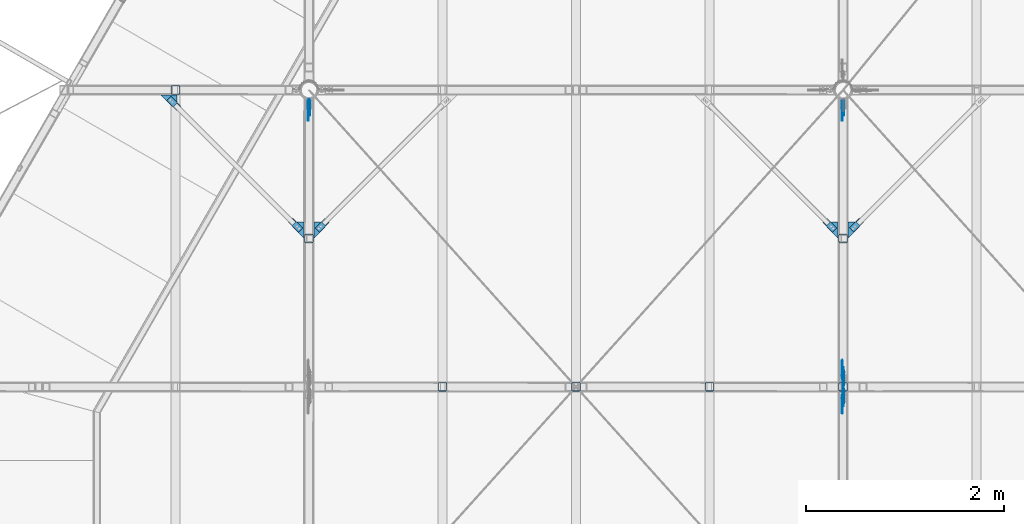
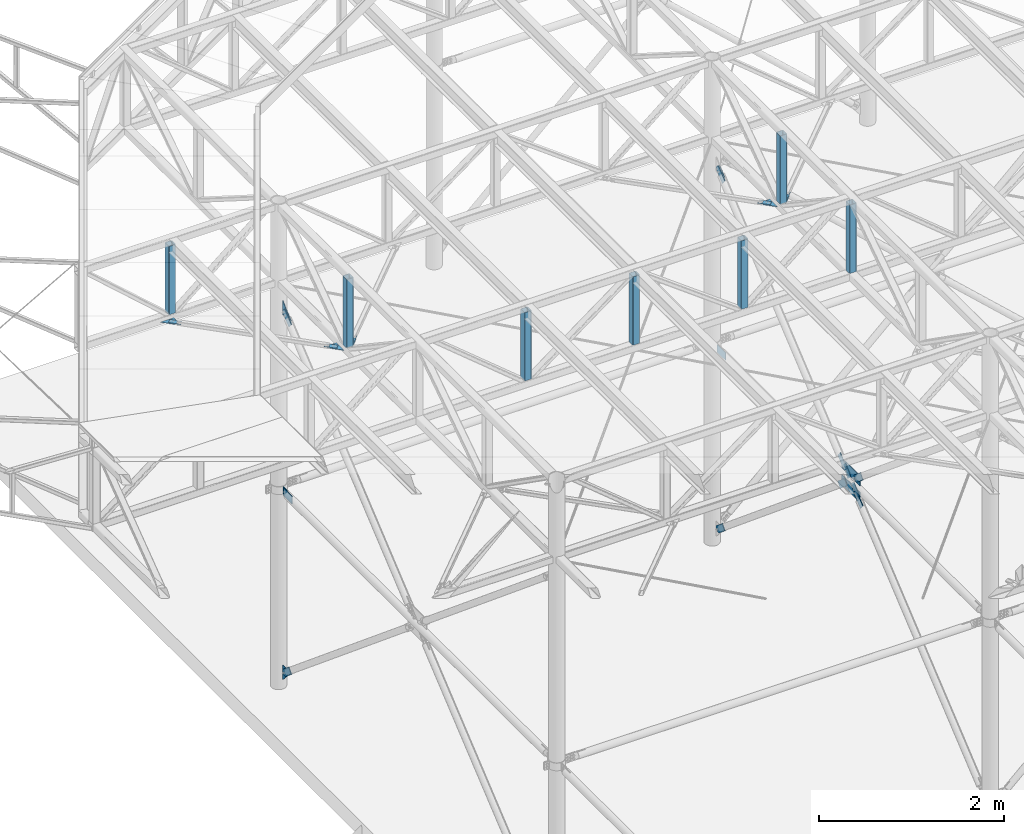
# One storey, part 86 of 132: 40 discrete accessories, 23 elements without a shape of their own.
"""IFC2X3 building model written with IfcOpenShell, lengths in millimetres."""

import ifcopenshell
import ifcopenshell.guid

model = None  # the IFC model being written
_history = None  # IfcOwnerHistory: only IFC2X3 demands one
_inside = {}  # id of a spatial element -> (the spatial element, [elements in it])
_under = {}  # id of a project, library or spatial element -> (it, [spatial elements below it])
_declared = {}  # id of a project -> (the project, [libraries it declares])
_typed = {}  # id of a type object -> (the type object, [elements of that type])
_made_of = {}  # id of a material, layer set ... -> (it, [elements and type objects made of it])


def new_model(schema):
    """Start an empty IFC model of exactly this schema.

    Asked for "IFC4X3", IfcOpenShell would pick the latest addendum, in which some entities
    have other attributes; the version numbers below select the first issue.
    IFC2X3 requires an IfcOwnerHistory on every rooted entity: one is made here for all.
    """
    global model, _history
    if schema == "IFC4X3":
        model = ifcopenshell.file(schema_version=(4, 3, 0, 0))
    else:
        model = ifcopenshell.file(schema=schema)
    _inside.clear()
    _under.clear()
    _declared.clear()
    _typed.clear()
    _made_of.clear()
    _history = None
    if model.schema == "IFC2X3":
        org = make("IfcOrganization", Name="unknown")
        user = make(
            "IfcPersonAndOrganization",
            ThePerson=make("IfcPerson", FamilyName="unknown"),
            TheOrganization=org,
        )
        app = make(
            "IfcApplication",
            ApplicationDeveloper=org,
            Version="unknown",
            ApplicationFullName="unknown",
            ApplicationIdentifier="unknown",
        )
        _history = make(
            "IfcOwnerHistory",
            OwningUser=user,
            OwningApplication=app,
            ChangeAction="ADDED",
            CreationDate=0,
        )
    return model


def make(cls, **values):
    """One entity of the class cls with the attributes given. An attribute that is None is left unset."""
    return model.create_entity(
        cls, **{name: value for name, value in values.items() if value is not None}
    )


def rooted(cls, **values):
    """An entity with a GlobalId (a new one), such as an element, a storey or a relation."""
    return make(cls, GlobalId=ifcopenshell.guid.new(), OwnerHistory=_history, **values)


def si_unit(unit_type, name, prefix=None):
    """IfcSIUnit, for example si_unit("LENGTHUNIT", "METRE", prefix="MILLI")."""
    return make("IfcSIUnit", UnitType=unit_type, Prefix=prefix, Name=name)


def assignment(units):
    """IfcUnitAssignment: the units of a project."""
    return None if units is None else make("IfcUnitAssignment", Units=units)


def point(xyz):
    """IfcCartesianPoint."""
    return None if xyz is None else make("IfcCartesianPoint", Coordinates=xyz)


def direction(xyz):
    """IfcDirection."""
    return None if xyz is None else make("IfcDirection", DirectionRatios=xyz)


def frame(location, z_axis=None, x_axis=None):
    """IfcAxis2Placement3D, a coordinate frame: its origin and axes. An axis left out is left unset."""
    return make(
        "IfcAxis2Placement3D",
        Location=point(location),
        Axis=direction(z_axis),
        RefDirection=direction(x_axis),
    )


def frame_2d(location, x_axis=None):
    """IfcAxis2Placement2D, a coordinate frame in the plane: its origin and x axis."""
    return make(
        "IfcAxis2Placement2D", Location=point(location), RefDirection=direction(x_axis)
    )


def origin_with_axes():
    """The frame at (0, 0, 0) with the z axis (0, 0, 1) and the x axis (1, 0, 0) written out."""
    return frame((0.0, 0.0, 0.0), z_axis=(0.0, 0.0, 1.0), x_axis=(1.0, 0.0, 0.0))


def origin_2d_with_axis():
    """The frame at (0, 0) in the plane with the x axis (1, 0) written out."""
    return frame_2d((0.0, 0.0), x_axis=(1.0, 0.0))


def place(relative_to, where):
    """IfcLocalPlacement: puts the frame where relative to a parent placement (None: the world)."""
    return make(
        "IfcLocalPlacement", PlacementRelTo=relative_to, RelativePlacement=where
    )


def context(
    kind, dimensions, precision=None, world=None, true_north=None, identifier=None
):
    """IfcGeometricRepresentationContext, for example the 3D "Model" context."""
    return make(
        "IfcGeometricRepresentationContext",
        ContextIdentifier=identifier,
        ContextType=kind,
        CoordinateSpaceDimension=dimensions,
        Precision=precision,
        WorldCoordinateSystem=world,
        TrueNorth=true_north,
    )


def subcontext(parent, identifier, kind, view, scale=None):
    """IfcGeometricRepresentationSubContext, for example "Body" below "Model"."""
    return make(
        "IfcGeometricRepresentationSubContext",
        ContextIdentifier=identifier,
        ContextType=kind,
        ParentContext=parent,
        TargetScale=scale,
        TargetView=view,
    )


def project(units=None, contexts=None):
    """IfcProject with its units and contexts."""
    return rooted(
        "IfcProject",
        Name="project",
        RepresentationContexts=contexts,
        UnitsInContext=assignment(units),
    )


def spatial(cls, under=None, at=None, **own):
    """A site, building, storey or space (cls), placed at a placement, below another one or the project."""
    s = rooted(cls, ObjectPlacement=at, **own)
    if under is not None:
        _under.setdefault(under.id(), (under, []))[1].append(s)
    return s


def polyline(points):
    """IfcPolyline through the points."""
    return make("IfcPolyline", Points=[point(p) for p in points])


def profile(cls, at=None, kind="AREA", **sizes):
    """A parametric profile (cls). Its sizes go by their IFC names, for example OverallWidth=200.0."""
    return make(cls, ProfileType=kind, Position=at, **sizes)


def rectangle(**sizes):
    """IfcRectangleProfileDef."""
    return profile("IfcRectangleProfileDef", **sizes)


def hollow_rectangle(**sizes):
    """IfcRectangleHollowProfileDef."""
    return profile("IfcRectangleHollowProfileDef", **sizes)


def outline(outer, holes=None, kind="AREA"):
    """IfcArbitraryClosedProfileDef: a profile drawn as a closed curve; with holes, ...WithVoids."""
    if holes is None:
        return make("IfcArbitraryClosedProfileDef", ProfileType=kind, OuterCurve=outer)
    return make(
        "IfcArbitraryProfileDefWithVoids",
        ProfileType=kind,
        OuterCurve=outer,
        InnerCurves=holes,
    )


def extrude(swept, where, along, depth):
    """IfcExtrudedAreaSolid: the profile swept, set in the frame where, extruded along a direction by depth."""
    return make(
        "IfcExtrudedAreaSolid",
        SweptArea=swept,
        Position=where,
        ExtrudedDirection=direction(along),
        Depth=depth,
    )


def boolean(op, a, b):
    """IfcBooleanResult of two solids."""
    return make("IfcBooleanResult", Operator=op, FirstOperand=a, SecondOperand=b)


def clip(a, b, op="DIFFERENCE"):
    """IfcBooleanClippingResult: the solid a cut by the half space b."""
    return make(
        "IfcBooleanClippingResult", Operator=op, FirstOperand=a, SecondOperand=b
    )


def halfspace(plane, agree):
    """IfcHalfSpaceSolid: all space on one side of the plane z = 0 of the frame plane."""
    return make(
        "IfcHalfSpaceSolid",
        BaseSurface=make("IfcPlane", Position=plane),
        AgreementFlag=agree,
    )


def shape(context_of_items, identifier, shape_type, items):
    """IfcShapeRepresentation: the items that make up one representation, for example the "Body"."""
    return make(
        "IfcShapeRepresentation",
        ContextOfItems=context_of_items,
        RepresentationIdentifier=identifier,
        RepresentationType=shape_type,
        Items=items,
    )


def material(Name=None, Category=None):
    """IfcMaterial."""
    return make("IfcMaterial", Name=Name, Category=Category)


def made_of(thing, what):
    """Note that an element or type object is made of a material, layer set ...; save() writes the relation."""
    if what is not None:
        _made_of.setdefault(what.id(), (what, []))[1].append(thing)
    return thing


def type_object(cls, material=None, **own):
    """A type object (cls), such as IfcWallType, which elements share."""
    return made_of(rooted(cls, **own), material)


def element(
    cls,
    number,
    at=None,
    inside=None,
    cuts=None,
    type_object=None,
    material=None,
    context=None,
    identifier="Body",
    shape_type=None,
    held_by="IfcProductDefinitionShape",
    body=None,
    shapes=None,
    **own,
):
    """One element of the class cls, such as IfcWall. Its Tag is "e" and its number.

    at: its placement. inside: the storey or other place that contains it. cuts: it is an
    opening in that element (IfcRelVoidsElement). A single representation is given by context,
    identifier, shape_type and body (its items); several are given by shapes. held_by: the class
    of the entity that holds the representations. save() writes the other relations.
    """
    e = rooted(cls, Tag="e%d" % number, ObjectPlacement=at, **own)
    if body is not None:
        shapes = [shape(context, identifier, shape_type, body)]
    if shapes is not None:
        e.Representation = make(held_by, Representations=shapes)
    if inside is not None:
        _inside.setdefault(inside.id(), (inside, []))[1].append(e)
    if cuts is not None:
        rooted(
            "IfcRelVoidsElement", RelatingBuildingElement=cuts, RelatedOpeningElement=e
        )
    if type_object is not None:
        _typed.setdefault(type_object.id(), (type_object, []))[1].append(e)
    return made_of(e, material)


def aggregate(whole, parts):
    """IfcRelAggregates: a whole, such as a stair, and the parts it consists of."""
    return rooted("IfcRelAggregates", RelatingObject=whole, RelatedObjects=parts)


def save(model, path):
    """Write the relations noted so far, then the file.

    IfcRelAggregates (storeys below a building ...), IfcRelContainedInSpatialStructure (elements
    in a storey), IfcRelDefinesByType, IfcRelAssociatesMaterial and IfcRelDeclares: one each for
    every whole, place, type object, material and project.
    """
    for whole, parts in _under.values():
        aggregate(whole, parts)
    for where, things in _inside.values():
        rooted(
            "IfcRelContainedInSpatialStructure",
            RelatedElements=things,
            RelatingStructure=where,
        )
    for kind, things in _typed.values():
        rooted("IfcRelDefinesByType", RelatedObjects=things, RelatingType=kind)
    for what, things in _made_of.values():
        rooted("IfcRelAssociatesMaterial", RelatedObjects=things, RelatingMaterial=what)
    for by, libraries in _declared.values():
        rooted("IfcRelDeclares", RelatingContext=by, RelatedDefinitions=libraries)
    model.write(path)


model = new_model("IFC2X3")

# Units and contexts
model_context = context("Model", 3, precision=1e-05, world=origin_with_axes())
body_context = subcontext(model_context, "Body", "Model", "MODEL_VIEW")
ifc_project = project(units=[si_unit("LENGTHUNIT", "METRE", prefix="MILLI"), si_unit("AREAUNIT", "SQUARE_METRE"), si_unit("VOLUMEUNIT", "CUBIC_METRE"), si_unit("MASSUNIT", "GRAM", prefix="KILO"), si_unit("TIMEUNIT", "SECOND"), si_unit("PLANEANGLEUNIT", "RADIAN"), si_unit("SOLIDANGLEUNIT", "STERADIAN"), si_unit("THERMODYNAMICTEMPERATUREUNIT", "DEGREE_CELSIUS"), si_unit("LUMINOUSINTENSITYUNIT", "LUMEN")], contexts=[model_context])

# Site, building, storey
site_placement = place(None, origin_with_axes())
site = spatial("IfcSite", under=ifc_project, at=site_placement, Name="Budowa", CompositionType="ELEMENT")
building_placement = place(site_placement, origin_with_axes())
building = spatial("IfcBuilding", under=site, at=building_placement, Name="Undefined", CompositionType="ELEMENT")
storey_placement = place(building_placement, origin_with_axes())
storey = spatial("IfcBuildingStorey", under=building, at=storey_placement, Name="Undefined", CompositionType="ELEMENT", Elevation=0.0)

# Assembly, discrete accessory
assembly_1_placement = place(storey_placement, origin_with_axes())
assembly_1 = element("IfcElementAssembly", 1, at=assembly_1_placement, inside=storey, Name="Steel Assembly", AssemblyPlace="NOTDEFINED", PredefinedType="RIGID_FRAME")
ifc_material = material(Name="STEEL/S235")
discrete_accessory_type_1 = type_object("IfcDiscreteAccessoryType", Name="BLACHA")
discrete_accessory_1_placement = place(assembly_1_placement, frame((9417.00000029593, 15086.2319782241, 9988.42276316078), z_axis=(-1.0, 0.0, 0.0), x_axis=(0.0, -0.0918557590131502, 0.995772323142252)))
discrete_accessory_1 = element("IfcDiscreteAccessory", 2, at=discrete_accessory_1_placement, type_object=discrete_accessory_type_1, material=ifc_material, Name="BLACHA", ObjectType="BL8*86", context=body_context, shape_type="SweptSolid", body=[
    extrude(outline(polyline([(0.0, 0.0), (28.2842712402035, 3.27418092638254e-11), (60.8111839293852, 32.5269126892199), (60.8111839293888, 60.8111839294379), (-59.3969688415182, 181.019332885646), (-120.20815277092, 120.208152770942), (0.0, 0.0)])), frame((0.0, 0.0, -4.0), z_axis=(0.0, 0.0, 1.0), x_axis=(1.0, 0.0, 0.0)), (0.0, 0.0, 1.0), 8.0),
])

assembly_2_placement = place(storey_placement, origin_with_axes())
assembly_2 = element("IfcElementAssembly", 3, at=assembly_2_placement, inside=storey, Name="Steel Assembly", AssemblyPlace="NOTDEFINED", PredefinedType="RIGID_FRAME")
discrete_accessory_2_placement = place(assembly_2_placement, frame((9417.00000029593, 14858.8019400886, 10054.56271592), z_axis=(-1.0, 0.0, 0.0), x_axis=(0.0, 0.99577231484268, -0.091855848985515)))
discrete_accessory_2 = element("IfcDiscreteAccessory", 4, at=discrete_accessory_2_placement, type_object=discrete_accessory_type_1, material=ifc_material, Name="BLACHA", ObjectType="BL8*86", context=body_context, shape_type="SweptSolid", body=[
    extrude(outline(polyline([(0.0, 0.0), (28.2842712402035, 3.27418092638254e-11), (60.8111839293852, 32.5269126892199), (60.8111839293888, 60.8111839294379), (-59.3969688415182, 181.019332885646), (-120.20815277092, 120.208152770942), (0.0, 0.0)])), frame((0.0, 0.0, -4.0), z_axis=(0.0, 0.0, 1.0), x_axis=(1.0, 0.0, 0.0)), (0.0, 0.0, 1.0), 8.0),
])
aggregate(assembly_2, [discrete_accessory_2])

assembly_3_placement = place(storey_placement, origin_with_axes())
assembly_3 = element("IfcElementAssembly", 5, at=assembly_3_placement, inside=storey, Name="Steel Assembly", AssemblyPlace="NOTDEFINED", PredefinedType="RIGID_FRAME")
discrete_accessory_3_placement = place(assembly_3_placement, frame((9417.00000056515, 14913.7695744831, 10243.577989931), z_axis=(-1.0, 0.0, 0.0), x_axis=(0.0, 0.0918557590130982, -0.995772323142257)))
discrete_accessory_3 = element("IfcDiscreteAccessory", 6, at=discrete_accessory_3_placement, type_object=discrete_accessory_type_1, material=ifc_material, Name="BLACHA", ObjectType="BL8*86", context=body_context, shape_type="SweptSolid", body=[
    extrude(outline(polyline([(0.0, 0.0), (28.2842712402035, 3.27418092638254e-11), (60.8111839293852, 32.5269126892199), (60.8111839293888, 60.8111839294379), (-59.3969688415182, 181.019332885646), (-120.20815277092, 120.208152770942), (0.0, 0.0)])), frame((0.0, 0.0, -4.0), z_axis=(0.0, 0.0, 1.0), x_axis=(1.0, 0.0, 0.0)), (0.0, 0.0, 1.0), 8.0),
])
aggregate(assembly_3, [discrete_accessory_3])

assembly_4_placement = place(storey_placement, origin_with_axes())
assembly_4 = element("IfcElementAssembly", 7, at=assembly_4_placement, inside=storey, Name="Steel Assembly", AssemblyPlace="NOTDEFINED", PredefinedType="RIGID_FRAME")
discrete_accessory_4_placement = place(assembly_4_placement, frame((9417.00000056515, 15141.2008529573, 10177.4380375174), z_axis=(-1.0, 0.0, 0.0), x_axis=(0.0, -0.995772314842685, 0.0918558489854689)))
discrete_accessory_4 = element("IfcDiscreteAccessory", 8, at=discrete_accessory_4_placement, type_object=discrete_accessory_type_1, material=ifc_material, Name="BLACHA", ObjectType="BL8*86", context=body_context, shape_type="SweptSolid", body=[
    extrude(outline(polyline([(0.0, 0.0), (28.2842712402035, 3.27418092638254e-11), (60.8111839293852, 32.5269126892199), (60.8111839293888, 60.8111839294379), (-59.3969688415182, 181.019332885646), (-120.20815277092, 120.208152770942), (0.0, 0.0)])), frame((0.0, 0.0, -4.0), z_axis=(0.0, 0.0, 1.0), x_axis=(1.0, 0.0, 0.0)), (0.0, 0.0, 1.0), 8.0),
])

# Assembly, discrete accessories
assembly_5_placement = place(storey_placement, origin_with_axes())
assembly_5 = element("IfcElementAssembly", 9, at=assembly_5_placement, inside=storey, Name="Steel Assembly", AssemblyPlace="NOTDEFINED", PredefinedType="RIGID_FRAME")
discrete_accessory_5_placement = place(assembly_5_placement, frame((9425.00000029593, 14801.7712639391, 10072.3460259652), z_axis=(-1.0, 0.0, 0.0), x_axis=(0.0, 1.0, 0.0)))
discrete_accessory_5 = element("IfcDiscreteAccessory", 10, at=discrete_accessory_5_placement, type_object=discrete_accessory_type_1, material=ifc_material, Name="BLACHA", ObjectType="BL8*133", context=body_context, shape_type="SweptSolid", body=[
    extrude(outline(polyline([(0.0, 0.0), (396.459625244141, 0.0), (396.459625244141, 58.6795501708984), (335.099731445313, 132.510192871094), (61.3598861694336, 132.510192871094), (0.0, 58.6795463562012), (0.0, 0.0)])), frame((0.0, 0.0, -4.0), z_axis=(0.0, 0.0, 1.0), x_axis=(1.0, 0.0, 0.0)), (0.0, 0.0, 1.0), 8.0),
])
discrete_accessory_6_placement = place(assembly_5_placement, frame((9425.00000056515, 15198.231527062, 10159.6547299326), z_axis=(-1.0, 0.0, 0.0), x_axis=(0.0, -1.0, 0.0)))
discrete_accessory_6 = element("IfcDiscreteAccessory", 11, at=discrete_accessory_6_placement, type_object=discrete_accessory_type_1, material=ifc_material, Name="BLACHA", ObjectType="BL8*133", context=body_context, shape_type="SweptSolid", body=[
    extrude(outline(polyline([(0.0, 0.0), (396.460845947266, 0.0), (396.460845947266, 58.6795501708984), (335.100982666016, 132.510192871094), (61.3598861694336, 132.510192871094), (0.0, 58.6795463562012), (0.0, 0.0)])), frame((0.0, 0.0, -4.0), z_axis=(0.0, 0.0, 1.0), x_axis=(1.0, 0.0, 0.0)), (0.0, 0.0, 1.0), 8.0),
])

# Assembly, discrete accessory
assembly_6_placement = place(storey_placement, origin_with_axes())
assembly_6 = element("IfcElementAssembly", 12, at=assembly_6_placement, inside=storey, Name="Steel Assembly", AssemblyPlace="NOTDEFINED", PredefinedType="RIGID_FRAME")
discrete_accessory_7_placement = place(assembly_6_placement, frame((4016.9999997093, 17879.0487899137, 7723.25304714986), z_axis=(0.0, 0.639165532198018, 0.76906919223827), x_axis=(0.0, -0.76906919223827, 0.639165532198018)))
discrete_accessory_7 = element("IfcDiscreteAccessory", 13, at=discrete_accessory_7_placement, type_object=discrete_accessory_type_1, material=ifc_material, Name="BLACHA", ObjectType="BL8*86", context=body_context, shape_type="CSG", body=[
    boolean("DIFFERENCE", boolean("DIFFERENCE", extrude(rectangle(XDim=8.0, YDim=86.0, at=origin_2d_with_axis()), frame((190.000000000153, -3.63797880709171e-12, 3.30513394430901e-13), z_axis=(-1.0, 0.0, 0.0), x_axis=(0.0, -1.0, 0.0)), (0.0, 0.0, 1.0), 190.0), extrude(outline(polyline([(0.0, 0.0), (20.0000000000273, -3.63797880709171e-12), (5.45696821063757e-12, 20.0000000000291), (0.0, 0.0)])), frame((3.63797880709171e-12, -6.49999986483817, 43.0), z_axis=(0.0, 1.0, 0.0), x_axis=(1.0, 0.0, 0.0)), (0.0, 0.0, 1.0), 13.0)), extrude(outline(polyline([(0.0, 0.0), (20.0000000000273, -3.63797880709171e-12), (5.45696821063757e-12, 20.0000000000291), (0.0, 0.0)])), frame((0.0, 6.50000013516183, -43.0), z_axis=(0.0, -1.0, 0.0), x_axis=(1.0, 0.0, 0.0)), (0.0, 0.0, 1.0), 13.0)),
])
aggregate(assembly_6, [discrete_accessory_7])

assembly_7_placement = place(storey_placement, origin_with_axes())
assembly_7 = element("IfcElementAssembly", 14, at=assembly_7_placement, inside=storey, Name="Steel Assembly", AssemblyPlace="NOTDEFINED", PredefinedType="RIGID_FRAME")
discrete_accessory_8_placement = place(assembly_7_placement, frame((4016.99999971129, 17879.0487906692, 12508.7467522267), z_axis=(0.0, -0.639165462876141, 0.769069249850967), x_axis=(0.0, -0.769069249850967, -0.639165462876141)))
discrete_accessory_8 = element("IfcDiscreteAccessory", 15, at=discrete_accessory_8_placement, type_object=discrete_accessory_type_1, material=ifc_material, Name="BLACHA", ObjectType="BL8*86", context=body_context, shape_type="CSG", body=[
    boolean("DIFFERENCE", boolean("DIFFERENCE", extrude(rectangle(XDim=8.0, YDim=86.0, at=origin_2d_with_axis()), frame((190.000000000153, -3.63797880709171e-12, 3.30513394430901e-13), z_axis=(-1.0, 0.0, 0.0), x_axis=(0.0, -1.0, 0.0)), (0.0, 0.0, 1.0), 190.0), extrude(outline(polyline([(0.0, 0.0), (20.0000000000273, -3.63797880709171e-12), (5.45696821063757e-12, 20.0000000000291), (0.0, 0.0)])), frame((0.0, 6.50000013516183, -43.0), z_axis=(0.0, -1.0, 0.0), x_axis=(1.0, 0.0, 0.0)), (0.0, 0.0, 1.0), 13.0)), extrude(outline(polyline([(0.0, 0.0), (20.0000000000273, -3.63797880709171e-12), (5.45696821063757e-12, 20.0000000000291), (0.0, 0.0)])), frame((3.63797880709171e-12, -6.49999986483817, 43.0), z_axis=(0.0, 1.0, 0.0), x_axis=(1.0, 0.0, 0.0)), (0.0, 0.0, 1.0), 13.0)),
])
aggregate(assembly_7, [discrete_accessory_8])

# Assembly, discrete accessories
assembly_8_placement = place(storey_placement, origin_with_axes())
assembly_8 = element("IfcElementAssembly", 16, at=assembly_8_placement, inside=storey, Name="Steel Assembly", AssemblyPlace="NOTDEFINED", PredefinedType="RIGID_FRAME")
discrete_accessory_9_placement = place(assembly_8_placement, frame((4025.0000023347, 17911.1000000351, 7622.99987030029), z_axis=(1.0, 0.0, 0.0), x_axis=(0.0, 0.0, 1.0)))
discrete_accessory_9 = element("IfcDiscreteAccessory", 17, at=discrete_accessory_9_placement, type_object=discrete_accessory_type_1, material=ifc_material, Name="BLACHA", ObjectType="BL8*126", context=body_context, shape_type="SweptSolid", body=[
    extrude(outline(polyline([(0.0, 0.0), (188.000686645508, 0.0), (188.000686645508, 75.9982376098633), (127.00080871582, 125.999382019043), (0.0, 10.0), (0.0, 0.0)])), frame((0.0, 0.0, -4.0), z_axis=(0.0, 0.0, 1.0), x_axis=(1.0, 0.0, 0.0)), (0.0, 0.0, 1.0), 8.0),
])
discrete_accessory_10_placement = place(assembly_8_placement, frame((4025.00000233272, 17911.1000000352, 12421.0002059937), z_axis=(1.0, 0.0, 0.0), x_axis=(0.0, 0.0, 1.0)))
discrete_accessory_10 = element("IfcDiscreteAccessory", 18, at=discrete_accessory_10_placement, type_object=discrete_accessory_type_1, material=ifc_material, Name="BLACHA", ObjectType="BL8*126", context=body_context, shape_type="SweptSolid", body=[
    extrude(outline(polyline([(0.0, 0.0), (187.999725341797, 0.0), (187.999725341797, 10.0), (60.999870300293, 125.999382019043), (5.18411980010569e-09, 75.9982376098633), (0.0, 0.0)])), frame((0.0, 0.0, -4.0), z_axis=(0.0, 0.0, 1.0), x_axis=(1.0, 0.0, 0.0)), (0.0, 0.0, 1.0), 8.0),
])
aggregate(assembly_8, [discrete_accessory_9, discrete_accessory_10])

# Discrete accessory
discrete_accessory_11_placement = place(assembly_1_placement, frame((9416.99999968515, 17879.0487899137, 7723.25304714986), z_axis=(0.0, 0.639165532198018, 0.76906919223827), x_axis=(0.0, -0.76906919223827, 0.639165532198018)))
discrete_accessory_11 = element("IfcDiscreteAccessory", 19, at=discrete_accessory_11_placement, type_object=discrete_accessory_type_1, material=ifc_material, Name="BLACHA", ObjectType="BL8*86", context=body_context, shape_type="CSG", body=[
    boolean("DIFFERENCE", boolean("DIFFERENCE", extrude(rectangle(XDim=8.0, YDim=86.0, at=origin_2d_with_axis()), frame((190.000000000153, -3.63797880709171e-12, 3.30513394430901e-13), z_axis=(-1.0, 0.0, 0.0), x_axis=(0.0, -1.0, 0.0)), (0.0, 0.0, 1.0), 190.0), extrude(outline(polyline([(0.0, 0.0), (20.0000000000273, -3.63797880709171e-12), (5.45696821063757e-12, 20.0000000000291), (0.0, 0.0)])), frame((3.63797880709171e-12, -6.49999986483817, 43.0), z_axis=(0.0, 1.0, 0.0), x_axis=(1.0, 0.0, 0.0)), (0.0, 0.0, 1.0), 13.0)), extrude(outline(polyline([(0.0, 0.0), (20.0000000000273, -3.63797880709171e-12), (5.45696821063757e-12, 20.0000000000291), (0.0, 0.0)])), frame((0.0, 6.50000013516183, -43.0), z_axis=(0.0, -1.0, 0.0), x_axis=(1.0, 0.0, 0.0)), (0.0, 0.0, 1.0), 13.0)),
])

aggregate(assembly_1, [discrete_accessory_1, discrete_accessory_11])

discrete_accessory_12_placement = place(assembly_4_placement, frame((9416.99999968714, 17879.0487906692, 12508.7467522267), z_axis=(0.0, -0.639165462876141, 0.769069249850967), x_axis=(0.0, -0.769069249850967, -0.639165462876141)))
discrete_accessory_12 = element("IfcDiscreteAccessory", 20, at=discrete_accessory_12_placement, type_object=discrete_accessory_type_1, material=ifc_material, Name="BLACHA", ObjectType="BL8*86", context=body_context, shape_type="CSG", body=[
    boolean("DIFFERENCE", boolean("DIFFERENCE", extrude(rectangle(XDim=8.0, YDim=86.0, at=origin_2d_with_axis()), frame((190.000000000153, -3.63797880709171e-12, 3.30513394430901e-13), z_axis=(-1.0, 0.0, 0.0), x_axis=(0.0, -1.0, 0.0)), (0.0, 0.0, 1.0), 190.0), extrude(outline(polyline([(0.0, 0.0), (20.0000000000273, -3.63797880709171e-12), (5.45696821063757e-12, 20.0000000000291), (0.0, 0.0)])), frame((0.0, 6.50000013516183, -43.0), z_axis=(0.0, -1.0, 0.0), x_axis=(1.0, 0.0, 0.0)), (0.0, 0.0, 1.0), 13.0)), extrude(outline(polyline([(0.0, 0.0), (20.0000000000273, -3.63797880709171e-12), (5.45696821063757e-12, 20.0000000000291), (0.0, 0.0)])), frame((3.63797880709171e-12, -6.49999986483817, 43.0), z_axis=(0.0, 1.0, 0.0), x_axis=(1.0, 0.0, 0.0)), (0.0, 0.0, 1.0), 13.0)),
])

aggregate(assembly_4, [discrete_accessory_4, discrete_accessory_12])

# Assembly, discrete accessory
assembly_9_placement = place(storey_placement, origin_with_axes())
assembly_9 = element("IfcElementAssembly", 21, at=assembly_9_placement, inside=storey, Name="Steel Assembly", AssemblyPlace="NOTDEFINED", PredefinedType="RIGID_FRAME")
discrete_accessory_13_placement = place(assembly_9_placement, frame((4017.00000247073, 17872.0920947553, 10116.0003779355), z_axis=(1.0, 0.0, 0.0), x_axis=(0.0, -1.0, 0.0)))
discrete_accessory_13 = element("IfcDiscreteAccessory", 22, at=discrete_accessory_13_placement, type_object=discrete_accessory_type_1, material=ifc_material, Name="BLACHA", ObjectType="BL8*100", context=body_context, shape_type="SweptSolid", body=[
    extrude(outline(polyline([(180.0, 50.0), (180.0, -50.0), (0.0, -50.0), (0.0, 50.0), (180.0, 50.0)])), frame((0.0, 0.0, -4.0), z_axis=(0.0, 0.0, 1.0), x_axis=(1.0, 0.0, 0.0)), (0.0, 0.0, 1.0), 8.0),
])
aggregate(assembly_9, [discrete_accessory_13])

assembly_10_placement = place(storey_placement, origin_with_axes())
assembly_10 = element("IfcElementAssembly", 23, at=assembly_10_placement, inside=storey, Name="Steel Assembly", AssemblyPlace="NOTDEFINED", PredefinedType="RIGID_FRAME")
discrete_accessory_14_placement = place(assembly_10_placement, frame((4025.00000247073, 17902.0043567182, 10166.0003799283), z_axis=(-1.0, 0.0, 0.0), x_axis=(0.0, 0.0, -1.0)))
discrete_accessory_14 = element("IfcDiscreteAccessory", 24, at=discrete_accessory_14_placement, type_object=discrete_accessory_type_1, material=ifc_material, Name="BLACHA", ObjectType="BL8*90", context=body_context, shape_type="SweptSolid", body=[
    extrude(outline(polyline([(0.0, 0.0), (100.0, 0.0), (100.0, 89.9122619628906), (0.0, 89.9122619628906), (0.0, 0.0)])), frame((0.0, 0.0, -4.0), z_axis=(0.0, 0.0, 1.0), x_axis=(1.0, 0.0, 0.0)), (0.0, 0.0, 1.0), 8.0),
])
aggregate(assembly_10, [discrete_accessory_14])

# Discrete accessory
discrete_accessory_15_placement = place(assembly_5_placement, frame((9417.00000249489, 17872.0920947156, 10116.0003779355), z_axis=(1.0, 0.0, 0.0), x_axis=(0.0, -1.0, 0.0)))
discrete_accessory_15 = element("IfcDiscreteAccessory", 25, at=discrete_accessory_15_placement, type_object=discrete_accessory_type_1, material=ifc_material, Name="BLACHA", ObjectType="BL8*100", context=body_context, shape_type="SweptSolid", body=[
    extrude(outline(polyline([(180.0, 50.0), (180.0, -50.0), (0.0, -50.0), (0.0, 50.0), (180.0, 50.0)])), frame((0.0, 0.0, -4.0), z_axis=(0.0, 0.0, 1.0), x_axis=(1.0, 0.0, 0.0)), (0.0, 0.0, 1.0), 8.0),
])

aggregate(assembly_5, [discrete_accessory_5, discrete_accessory_6, discrete_accessory_15])

# Assembly, discrete accessory
assembly_11_placement = place(storey_placement, origin_with_axes())
assembly_11 = element("IfcElementAssembly", 26, at=assembly_11_placement, inside=storey, Name="Steel Assembly", AssemblyPlace="NOTDEFINED", PredefinedType="RIGID_FRAME")
discrete_accessory_16_placement = place(assembly_11_placement, frame((4033.00000001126, 17879.0487899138, 7723.25304714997), z_axis=(0.0, 0.639165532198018, 0.76906919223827), x_axis=(0.0, -0.76906919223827, 0.639165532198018)))
discrete_accessory_16 = element("IfcDiscreteAccessory", 27, at=discrete_accessory_16_placement, type_object=discrete_accessory_type_1, material=ifc_material, Name="BLACHA", ObjectType="BL8*69", context=body_context, shape_type="SweptSolid", body=[
    extrude(rectangle(XDim=8.0, YDim=69.0, at=origin_2d_with_axis()), frame((149.999999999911, 0.0, 0.0), z_axis=(-1.0, 0.0, 0.0), x_axis=(0.0, -1.0, 0.0)), (0.0, 0.0, 1.0), 150.0),
])
aggregate(assembly_11, [discrete_accessory_16])

assembly_12_placement = place(storey_placement, origin_with_axes())
assembly_12 = element("IfcElementAssembly", 28, at=assembly_12_placement, inside=storey, Name="Steel Assembly", AssemblyPlace="NOTDEFINED", PredefinedType="RIGID_FRAME")
discrete_accessory_17_placement = place(assembly_12_placement, frame((4033.00000000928, 17879.0487906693, 12508.7467522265), z_axis=(0.0, -0.639165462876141, 0.769069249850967), x_axis=(0.0, -0.769069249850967, -0.639165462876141)))
discrete_accessory_17 = element("IfcDiscreteAccessory", 29, at=discrete_accessory_17_placement, type_object=discrete_accessory_type_1, material=ifc_material, Name="BLACHA", ObjectType="BL8*69", context=body_context, shape_type="SweptSolid", body=[
    extrude(rectangle(XDim=8.0, YDim=69.0, at=origin_2d_with_axis()), frame((149.999999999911, 0.0, 0.0), z_axis=(-1.0, 0.0, 0.0), x_axis=(0.0, -1.0, 0.0)), (0.0, 0.0, 1.0), 150.0),
])
aggregate(assembly_12, [discrete_accessory_17])

assembly_13_placement = place(storey_placement, origin_with_axes())
assembly_13 = element("IfcElementAssembly", 30, at=assembly_13_placement, inside=storey, Name="Steel Assembly", AssemblyPlace="NOTDEFINED", PredefinedType="RIGID_FRAME")
discrete_accessory_18_placement = place(assembly_13_placement, frame((9433.00000003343, 14964.2782511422, 10086.3112420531), z_axis=(0.0, -0.639165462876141, 0.769069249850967), x_axis=(0.0, -0.769069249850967, -0.639165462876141)))
discrete_accessory_18 = element("IfcDiscreteAccessory", 31, at=discrete_accessory_18_placement, type_object=discrete_accessory_type_1, material=ifc_material, Name="BLACHA", ObjectType="BL8*69", context=body_context, shape_type="SweptSolid", body=[
    extrude(rectangle(XDim=8.0, YDim=69.0, at=origin_2d_with_axis()), frame((149.999999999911, 0.0, 0.0), z_axis=(-1.0, 0.0, 0.0), x_axis=(0.0, -1.0, 0.0)), (0.0, 0.0, 1.0), 150.0),
])
aggregate(assembly_13, [discrete_accessory_18])

# Assembly, discrete accessories
assembly_14_placement = place(storey_placement, origin_with_axes())
assembly_14 = element("IfcElementAssembly", 32, at=assembly_14_placement, inside=storey, Name="Steel Assembly", AssemblyPlace="NOTDEFINED", PredefinedType="RIGID_FRAME")
discrete_accessory_19_placement = place(assembly_14_placement, frame((9425.00000003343, 15007.937722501, 10071.235389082), z_axis=(1.0, 0.0, 0.0), x_axis=(0.0, -0.76906919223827, 0.639165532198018)))
discrete_accessory_19 = element("IfcDiscreteAccessory", 33, at=discrete_accessory_19_placement, type_object=discrete_accessory_type_1, material=ifc_material, Name="BLACHA", ObjectType="BL8*97", context=body_context, shape_type="SweptSolid", body=[
    extrude(outline(polyline([(0.0, 0.0), (98.5107040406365, 3.63797880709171e-12), (98.5107040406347, 97.5665740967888), (20.8438243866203, 112.018440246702), (0.0, 0.0)])), frame((0.0, 0.0, -4.0), z_axis=(0.0, 0.0, 1.0), x_axis=(1.0, 0.0, 0.0)), (0.0, 0.0, 1.0), 8.0),
])
discrete_accessory_20_placement = place(assembly_14_placement, frame((9433.00000003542, 17879.0487899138, 7723.25304714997), z_axis=(0.0, 0.639165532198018, 0.76906919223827), x_axis=(0.0, -0.76906919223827, 0.639165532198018)))
discrete_accessory_20 = element("IfcDiscreteAccessory", 34, at=discrete_accessory_20_placement, type_object=discrete_accessory_type_1, material=ifc_material, Name="BLACHA", ObjectType="BL8*69", context=body_context, shape_type="SweptSolid", body=[
    extrude(rectangle(XDim=8.0, YDim=69.0, at=origin_2d_with_axis()), frame((149.999999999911, 0.0, 0.0), z_axis=(-1.0, 0.0, 0.0), x_axis=(0.0, -1.0, 0.0)), (0.0, 0.0, 1.0), 150.0),
])

# Assembly, discrete accessory
assembly_15_placement = place(storey_placement, origin_with_axes())
assembly_15 = element("IfcElementAssembly", 35, at=assembly_15_placement, inside=storey, Name="Steel Assembly", AssemblyPlace="NOTDEFINED", PredefinedType="RIGID_FRAME")
discrete_accessory_21_placement = place(assembly_15_placement, frame((9432.99999984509, 15035.7239218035, 10145.6889960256), z_axis=(0.0, 0.639165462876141, -0.769069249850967), x_axis=(0.0, 0.769069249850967, 0.639165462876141)))
discrete_accessory_21 = element("IfcDiscreteAccessory", 36, at=discrete_accessory_21_placement, type_object=discrete_accessory_type_1, material=ifc_material, Name="BLACHA", ObjectType="BL8*69", context=body_context, shape_type="SweptSolid", body=[
    extrude(rectangle(XDim=8.0, YDim=69.0, at=origin_2d_with_axis()), frame((149.999999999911, 0.0, 0.0), z_axis=(-1.0, 0.0, 0.0), x_axis=(0.0, -1.0, 0.0)), (0.0, 0.0, 1.0), 150.0),
])

# Discrete accessory
discrete_accessory_22_placement = place(assembly_14_placement, frame((9424.99999984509, 14992.0644520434, 10160.7648470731), z_axis=(1.0, 0.0, 0.0), x_axis=(0.0, 0.769069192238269, -0.639165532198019)))
discrete_accessory_22 = element("IfcDiscreteAccessory", 37, at=discrete_accessory_22_placement, type_object=discrete_accessory_type_1, material=ifc_material, Name="BLACHA", ObjectType="BL8*97", context=body_context, shape_type="SweptSolid", body=[
    extrude(outline(polyline([(0.0, 0.0), (98.5107040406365, 3.63797880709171e-12), (98.5107040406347, 97.5665740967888), (20.8438243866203, 112.018440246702), (0.0, 0.0)])), frame((0.0, 0.0, -4.0), z_axis=(0.0, 0.0, 1.0), x_axis=(1.0, 0.0, 0.0)), (0.0, 0.0, 1.0), 8.0),
])

aggregate(assembly_14, [discrete_accessory_19, discrete_accessory_20, discrete_accessory_22])

discrete_accessory_23_placement = place(assembly_15_placement, frame((9433.00000003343, 17879.0487906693, 12508.7467522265), z_axis=(0.0, -0.639165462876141, 0.769069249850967), x_axis=(0.0, -0.769069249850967, -0.639165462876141)))
discrete_accessory_23 = element("IfcDiscreteAccessory", 38, at=discrete_accessory_23_placement, type_object=discrete_accessory_type_1, material=ifc_material, Name="BLACHA", ObjectType="BL8*69", context=body_context, shape_type="SweptSolid", body=[
    extrude(rectangle(XDim=8.0, YDim=69.0, at=origin_2d_with_axis()), frame((149.999999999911, 0.0, 0.0), z_axis=(-1.0, 0.0, 0.0), x_axis=(0.0, -1.0, 0.0)), (0.0, 0.0, 1.0), 150.0),
])

aggregate(assembly_15, [discrete_accessory_21, discrete_accessory_23])

# Assembly, discrete accessory
assembly_16_placement = place(storey_placement, origin_with_axes())
assembly_16 = element("IfcElementAssembly", 39, at=assembly_16_placement, inside=storey, Name="Steel Assembly", AssemblyPlace="NOTDEFINED", PredefinedType="RIGID_FRAME")
discrete_accessory_24_placement = place(assembly_16_placement, frame((4187.9949511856, 16705.4213581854, 12830.0), z_axis=(0.0, 0.0, 1.0), x_axis=(-0.70710678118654, -0.707106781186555, 0.0)))
discrete_accessory_24 = element("IfcDiscreteAccessory", 40, at=discrete_accessory_24_placement, type_object=discrete_accessory_type_1, material=ifc_material, Name="BLACHA", ObjectType="BL6*60", context=body_context, shape_type="SweptSolid", body=[
    extrude(outline(polyline([(0.0, 0.0), (139.99999999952, -6.2755134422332e-10), (139.99999999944, 59.9999999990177), (0.0, 60.0), (-8.00355337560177e-11, 54.9999999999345), (49.9999999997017, 54.9999999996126), (49.9999999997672, 4.99999999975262), (-8.73114913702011e-11, 5.00000000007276), (0.0, 0.0)])), frame((0.0, 0.0, -3.0), z_axis=(0.0, 0.0, 1.0), x_axis=(1.0, 0.0, 0.0)), (0.0, 0.0, 1.0), 6.0),
])
aggregate(assembly_16, [discrete_accessory_24])

assembly_17_placement = place(storey_placement, origin_with_axes())
assembly_17 = element("IfcElementAssembly", 41, at=assembly_17_placement, inside=storey, Name="Steel Assembly", AssemblyPlace="NOTDEFINED", PredefinedType="RIGID_FRAME")
discrete_accessory_25_placement = place(assembly_17_placement, frame((4074.99999991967, 16666.5304833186, 12824.0), z_axis=(0.0, 0.0, 1.0), x_axis=(0.0, -1.0, 0.0)))
discrete_accessory_25 = element("IfcDiscreteAccessory", 42, at=discrete_accessory_25_placement, type_object=discrete_accessory_type_1, material=ifc_material, Name="BLACHA", ObjectType="BL6*117", context=body_context, shape_type="SweptSolid", body=[
    extrude(outline(polyline([(0.0, 0.0), (166.027954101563, 0.0), (49.4974746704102, 116.530487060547), (0.0, 67.0330123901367), (0.0, 0.0)])), frame((0.0, 0.0, -3.0), z_axis=(0.0, 0.0, 1.0), x_axis=(1.0, 0.0, 0.0)), (0.0, 0.0, 1.0), 6.0),
])

assembly_18_placement = place(storey_placement, origin_with_axes())
assembly_18 = element("IfcElementAssembly", 43, at=assembly_18_placement, inside=storey, Name="Steel Assembly", AssemblyPlace="NOTDEFINED", PredefinedType="RIGID_FRAME")
discrete_accessory_26_placement = place(assembly_18_placement, frame((2730.42135806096, 17837.0050487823, 12830.0), z_axis=(0.0, 0.0, 1.0), x_axis=(-0.707106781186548, 0.707106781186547, 0.0)))
discrete_accessory_26 = element("IfcDiscreteAccessory", 44, at=discrete_accessory_26_placement, type_object=discrete_accessory_type_1, material=ifc_material, Name="BLACHA", ObjectType="BL6*60", context=body_context, shape_type="SweptSolid", body=[
    extrude(outline(polyline([(0.0, 0.0), (139.99999999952, -6.2755134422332e-10), (139.99999999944, 59.9999999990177), (0.0, 60.0), (-8.00355337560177e-11, 54.9999999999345), (49.9999999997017, 54.9999999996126), (49.9999999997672, 4.99999999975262), (-8.73114913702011e-11, 5.00000000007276), (0.0, 0.0)])), frame((0.0, 0.0, -3.0), z_axis=(0.0, 0.0, 1.0), x_axis=(1.0, 0.0, 0.0)), (0.0, 0.0, 1.0), 6.0),
])

assembly_19_placement = place(storey_placement, origin_with_axes())
assembly_19 = element("IfcElementAssembly", 45, at=assembly_19_placement, inside=storey, Name="Steel Assembly", AssemblyPlace="NOTDEFINED", PredefinedType="RIGID_FRAME")
discrete_accessory_27_placement = place(assembly_19_placement, frame((2691.53048319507, 17950.000000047, 12824.0), z_axis=(0.0, 0.0, 1.0), x_axis=(-1.0, 0.0, 0.0)))
discrete_accessory_27 = element("IfcDiscreteAccessory", 46, at=discrete_accessory_27_placement, type_object=discrete_accessory_type_1, material=ifc_material, Name="BLACHA", ObjectType="BL6*117", context=body_context, shape_type="SweptSolid", body=[
    extrude(outline(polyline([(0.0, 0.0), (166.027954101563, 0.0), (49.4974746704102, 116.530487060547), (0.0, 67.0330123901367), (0.0, 0.0)])), frame((0.0, 0.0, -3.0), z_axis=(0.0, 0.0, 1.0), x_axis=(1.0, 0.0, 0.0)), (0.0, 0.0, 1.0), 6.0),
])

# Discrete accessory
discrete_accessory_28_placement = place(assembly_18_placement, frame((3819.57864180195, 16662.9949512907, 12830.0), z_axis=(0.0, 0.0, 1.0), x_axis=(0.707106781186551, -0.707106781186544, 0.0)))
discrete_accessory_28 = element("IfcDiscreteAccessory", 47, at=discrete_accessory_28_placement, type_object=discrete_accessory_type_1, material=ifc_material, Name="BLACHA", ObjectType="BL6*60", context=body_context, shape_type="SweptSolid", body=[
    extrude(outline(polyline([(0.0, 0.0), (139.99999999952, -6.2755134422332e-10), (139.99999999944, 59.9999999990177), (0.0, 60.0), (-8.00355337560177e-11, 54.9999999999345), (49.9999999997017, 54.9999999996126), (49.9999999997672, 4.99999999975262), (-8.73114913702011e-11, 5.00000000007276), (0.0, 0.0)])), frame((0.0, 0.0, -3.0), z_axis=(0.0, 0.0, 1.0), x_axis=(1.0, 0.0, 0.0)), (0.0, 0.0, 1.0), 6.0),
])

aggregate(assembly_18, [discrete_accessory_26, discrete_accessory_28])

discrete_accessory_29_placement = place(assembly_17_placement, frame((3974.99999991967, 16500.5025253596, 12824.0), z_axis=(0.0, 0.0, 1.0), x_axis=(0.0, 1.0, 0.0)))
discrete_accessory_29 = element("IfcDiscreteAccessory", 48, at=discrete_accessory_29_placement, type_object=discrete_accessory_type_1, material=ifc_material, Name="BLACHA", ObjectType="BL6*117", context=body_context, shape_type="SweptSolid", body=[
    extrude(outline(polyline([(0.0, 0.0), (166.027954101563, 0.0), (166.027954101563, 67.0330123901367), (116.530487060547, 116.530487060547), (0.0, 0.0)])), frame((0.0, 0.0, -3.0), z_axis=(0.0, 0.0, 1.0), x_axis=(1.0, 0.0, 0.0)), (0.0, 0.0, 1.0), 6.0),
])

# Assembly, discrete accessory
assembly_20_placement = place(storey_placement, origin_with_axes())
assembly_20 = element("IfcElementAssembly", 49, at=assembly_20_placement, inside=storey, Name="Steel Assembly", AssemblyPlace="NOTDEFINED", PredefinedType="RIGID_FRAME")
discrete_accessory_30_placement = place(assembly_20_placement, frame((9587.99495120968, 16705.4213581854, 12830.0), z_axis=(0.0, 0.0, 1.0), x_axis=(-0.70710678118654, -0.707106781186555, 0.0)))
discrete_accessory_30 = element("IfcDiscreteAccessory", 50, at=discrete_accessory_30_placement, type_object=discrete_accessory_type_1, material=ifc_material, Name="BLACHA", ObjectType="BL6*60", context=body_context, shape_type="SweptSolid", body=[
    extrude(outline(polyline([(0.0, 0.0), (139.99999999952, -6.2755134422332e-10), (139.99999999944, 59.9999999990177), (0.0, 60.0), (-8.00355337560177e-11, 54.9999999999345), (49.9999999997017, 54.9999999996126), (49.9999999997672, 4.99999999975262), (-8.73114913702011e-11, 5.00000000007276), (0.0, 0.0)])), frame((0.0, 0.0, -3.0), z_axis=(0.0, 0.0, 1.0), x_axis=(1.0, 0.0, 0.0)), (0.0, 0.0, 1.0), 6.0),
])
aggregate(assembly_20, [discrete_accessory_30])

assembly_21_placement = place(storey_placement, origin_with_axes())
assembly_21 = element("IfcElementAssembly", 51, at=assembly_21_placement, inside=storey, Name="Steel Assembly", AssemblyPlace="NOTDEFINED", PredefinedType="RIGID_FRAME")
discrete_accessory_31_placement = place(assembly_21_placement, frame((9474.99999994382, 16666.5304833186, 12824.0), z_axis=(0.0, 0.0, 1.0), x_axis=(0.0, -1.0, 0.0)))
discrete_accessory_31 = element("IfcDiscreteAccessory", 52, at=discrete_accessory_31_placement, type_object=discrete_accessory_type_1, material=ifc_material, Name="BLACHA", ObjectType="BL6*117", context=body_context, shape_type="SweptSolid", body=[
    extrude(outline(polyline([(0.0, 0.0), (166.027954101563, 0.0), (49.4974746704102, 116.530487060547), (0.0, 67.0330123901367), (0.0, 0.0)])), frame((0.0, 0.0, -3.0), z_axis=(0.0, 0.0, 1.0), x_axis=(1.0, 0.0, 0.0)), (0.0, 0.0, 1.0), 6.0),
])

assembly_22_placement = place(storey_placement, origin_with_axes())
assembly_22 = element("IfcElementAssembly", 53, at=assembly_22_placement, inside=storey, Name="Steel Assembly", AssemblyPlace="NOTDEFINED", PredefinedType="RIGID_FRAME")
discrete_accessory_32_placement = place(assembly_22_placement, frame((9219.57864182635, 16662.9949512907, 12830.0), z_axis=(0.0, 0.0, 1.0), x_axis=(0.707106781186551, -0.707106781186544, 0.0)))
discrete_accessory_32 = element("IfcDiscreteAccessory", 54, at=discrete_accessory_32_placement, type_object=discrete_accessory_type_1, material=ifc_material, Name="BLACHA", ObjectType="BL6*60", context=body_context, shape_type="SweptSolid", body=[
    extrude(outline(polyline([(0.0, 0.0), (139.99999999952, -6.2755134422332e-10), (139.99999999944, 59.9999999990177), (0.0, 60.0), (-8.00355337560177e-11, 54.9999999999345), (49.9999999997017, 54.9999999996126), (49.9999999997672, 4.99999999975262), (-8.73114913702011e-11, 5.00000000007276), (0.0, 0.0)])), frame((0.0, 0.0, -3.0), z_axis=(0.0, 0.0, 1.0), x_axis=(1.0, 0.0, 0.0)), (0.0, 0.0, 1.0), 6.0),
])
aggregate(assembly_22, [discrete_accessory_32])

# Discrete accessory
discrete_accessory_33_placement = place(assembly_21_placement, frame((9374.99999994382, 16500.5025253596, 12824.0), z_axis=(0.0, 0.0, 1.0), x_axis=(0.0, 1.0, 0.0)))
discrete_accessory_33 = element("IfcDiscreteAccessory", 55, at=discrete_accessory_33_placement, type_object=discrete_accessory_type_1, material=ifc_material, Name="BLACHA", ObjectType="BL6*117", context=body_context, shape_type="SweptSolid", body=[
    extrude(outline(polyline([(0.0, 0.0), (166.027954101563, 0.0), (166.027954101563, 67.0330123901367), (116.530487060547, 116.530487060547), (0.0, 0.0)])), frame((0.0, 0.0, -3.0), z_axis=(0.0, 0.0, 1.0), x_axis=(1.0, 0.0, 0.0)), (0.0, 0.0, 1.0), 6.0),
])

discrete_accessory_type_2 = type_object("IfcDiscreteAccessoryType", Name="BEAM")
discrete_accessory_34_placement = place(assembly_19_placement, frame((2676.09999980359, 18000.000000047, 13780.0), z_axis=(1.0, 0.0, 0.0), x_axis=(0.0, 0.0, -1.0)))
discrete_accessory_34 = element("IfcDiscreteAccessory", 56, at=discrete_accessory_34_placement, type_object=discrete_accessory_type_2, material=ifc_material, Name="BEAM", ObjectType="SHS90*6", context=body_context, shape_type="Clipping", body=[
    clip(clip(extrude(hollow_rectangle(XDim=90.0, YDim=90.0, WallThickness=6.0, InnerFilletRadius=6.0, OuterFilletRadius=12.0, at=origin_2d_with_axis()), frame((900.0, 0.0, 0.0), z_axis=(-1.0, 0.0, 0.0), x_axis=(0.0, -1.0, 0.0)), (0.0, 0.0, 1.0), 900.0), halfspace(frame((900.0, 0.0, 1000.0), z_axis=(-1.0, 0.0, 0.0), x_axis=(0.0, -1.0, 0.0)), True)), halfspace(frame((0.0, 0.0, 1000.0), z_axis=(1.0, 0.0, 0.0), x_axis=(0.0, 1.0, 0.0)), True)),
])

aggregate(assembly_19, [discrete_accessory_27, discrete_accessory_34])

# Assembly, discrete accessories
assembly_23_placement = place(storey_placement, origin_with_axes())
assembly_23 = element("IfcElementAssembly", 57, at=assembly_23_placement, inside=storey, Name="Steel Assembly", AssemblyPlace="NOTDEFINED", PredefinedType="RIGID_FRAME")
discrete_accessory_35_placement = place(assembly_23_placement, frame((8074.99999993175, 15000.0000000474, 13780.0), z_axis=(0.0, -1.0, 0.0), x_axis=(0.0, 0.0, -1.0)))
discrete_accessory_35 = element("IfcDiscreteAccessory", 58, at=discrete_accessory_35_placement, type_object=discrete_accessory_type_2, material=ifc_material, Name="BEAM", ObjectType="SHS90*6", context=body_context, shape_type="Clipping", body=[
    clip(clip(extrude(hollow_rectangle(XDim=90.0, YDim=90.0, WallThickness=6.0, InnerFilletRadius=6.0, OuterFilletRadius=12.0, at=origin_2d_with_axis()), frame((900.0, 0.0, 0.0), z_axis=(-1.0, 0.0, 0.0), x_axis=(0.0, -1.0, 0.0)), (0.0, 0.0, 1.0), 900.0), halfspace(frame((900.0, 0.0, 1000.0), z_axis=(-1.0, 0.0, 0.0), x_axis=(0.0, -1.0, 0.0)), True)), halfspace(frame((0.0, 0.0, 1000.0), z_axis=(1.0, 0.0, 0.0), x_axis=(0.0, 1.0, 0.0)), True)),
])
discrete_accessory_36_placement = place(assembly_23_placement, frame((5374.99999993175, 15000.0000000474, 13780.0), z_axis=(0.0, -1.0, 0.0), x_axis=(0.0, 0.0, -1.0)))
discrete_accessory_36 = element("IfcDiscreteAccessory", 59, at=discrete_accessory_36_placement, type_object=discrete_accessory_type_2, material=ifc_material, Name="BEAM", ObjectType="SHS90*6", context=body_context, shape_type="Clipping", body=[
    clip(clip(extrude(hollow_rectangle(XDim=90.0, YDim=90.0, WallThickness=6.0, InnerFilletRadius=6.0, OuterFilletRadius=12.0, at=origin_2d_with_axis()), frame((900.0, 0.0, 0.0), z_axis=(-1.0, 0.0, 0.0), x_axis=(0.0, -1.0, 0.0)), (0.0, 0.0, 1.0), 900.0), halfspace(frame((900.0, 0.0, 1000.0), z_axis=(-1.0, 0.0, 0.0), x_axis=(0.0, -1.0, 0.0)), True)), halfspace(frame((0.0, 0.0, 1000.0), z_axis=(1.0, 0.0, 0.0), x_axis=(0.0, 1.0, 0.0)), True)),
])
discrete_accessory_37_placement = place(assembly_23_placement, frame((6724.99999993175, 15000.0000000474, 13780.0), z_axis=(0.0, -1.0, 0.0), x_axis=(0.0, 0.0, -1.0)))
discrete_accessory_37 = element("IfcDiscreteAccessory", 60, at=discrete_accessory_37_placement, type_object=discrete_accessory_type_2, material=ifc_material, Name="BEAM", ObjectType="SHS90*6", context=body_context, shape_type="Clipping", body=[
    clip(clip(extrude(hollow_rectangle(XDim=90.0, YDim=90.0, WallThickness=6.0, InnerFilletRadius=6.0, OuterFilletRadius=12.0, at=origin_2d_with_axis()), frame((900.0, 0.0, 0.0), z_axis=(-1.0, 0.0, 0.0), x_axis=(0.0, -1.0, 0.0)), (0.0, 0.0, 1.0), 900.0), halfspace(frame((900.0, 0.0, 1000.0), z_axis=(-1.0, 0.0, 0.0), x_axis=(0.0, -1.0, 0.0)), True)), halfspace(frame((0.0, 0.0, 1000.0), z_axis=(1.0, 0.0, 0.0), x_axis=(0.0, 1.0, 0.0)), True)),
])
aggregate(assembly_23, [discrete_accessory_35, discrete_accessory_36, discrete_accessory_37])

# Discrete accessory
discrete_accessory_38_placement = place(assembly_17_placement, frame((4024.99999991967, 16500.000000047, 13780.0), z_axis=(1.0, 0.0, 0.0), x_axis=(0.0, 0.0, -1.0)))
discrete_accessory_38 = element("IfcDiscreteAccessory", 61, at=discrete_accessory_38_placement, type_object=discrete_accessory_type_2, material=ifc_material, Name="BEAM", ObjectType="SHS90*6", context=body_context, shape_type="Clipping", body=[
    clip(clip(extrude(hollow_rectangle(XDim=90.0, YDim=90.0, WallThickness=6.0, InnerFilletRadius=6.0, OuterFilletRadius=12.0, at=origin_2d_with_axis()), frame((900.0, 0.0, 0.0), z_axis=(-1.0, 0.0, 0.0), x_axis=(0.0, -1.0, 0.0)), (0.0, 0.0, 1.0), 900.0), halfspace(frame((900.0, 0.0, 1000.0), z_axis=(-1.0, 0.0, 0.0), x_axis=(0.0, -1.0, 0.0)), True)), halfspace(frame((0.0, 0.0, 1000.0), z_axis=(1.0, 0.0, 0.0), x_axis=(0.0, 1.0, 0.0)), True)),
])

aggregate(assembly_17, [discrete_accessory_25, discrete_accessory_29, discrete_accessory_38])

discrete_accessory_39_placement = place(assembly_21_placement, frame((9424.99999994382, 16500.000000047, 13780.0), z_axis=(1.0, 0.0, 0.0), x_axis=(0.0, 0.0, -1.0)))
discrete_accessory_39 = element("IfcDiscreteAccessory", 62, at=discrete_accessory_39_placement, type_object=discrete_accessory_type_2, material=ifc_material, Name="BEAM", ObjectType="SHS90*6", context=body_context, shape_type="Clipping", body=[
    clip(clip(extrude(hollow_rectangle(XDim=90.0, YDim=90.0, WallThickness=6.0, InnerFilletRadius=6.0, OuterFilletRadius=12.0, at=origin_2d_with_axis()), frame((900.0, 0.0, 0.0), z_axis=(-1.0, 0.0, 0.0), x_axis=(0.0, -1.0, 0.0)), (0.0, 0.0, 1.0), 900.0), halfspace(frame((900.0, 0.0, 1000.0), z_axis=(-1.0, 0.0, 0.0), x_axis=(0.0, -1.0, 0.0)), True)), halfspace(frame((0.0, 0.0, 1000.0), z_axis=(1.0, 0.0, 0.0), x_axis=(0.0, 1.0, 0.0)), True)),
])

discrete_accessory_40_placement = place(assembly_21_placement, frame((9424.99999994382, 15000.000000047, 13780.0), z_axis=(1.0, 0.0, 0.0), x_axis=(0.0, 0.0, -1.0)))
discrete_accessory_40 = element("IfcDiscreteAccessory", 63, at=discrete_accessory_40_placement, type_object=discrete_accessory_type_2, material=ifc_material, Name="BEAM", ObjectType="SHS90*6", context=body_context, shape_type="Clipping", body=[
    clip(clip(extrude(hollow_rectangle(XDim=90.0, YDim=90.0, WallThickness=6.0, InnerFilletRadius=6.0, OuterFilletRadius=12.0, at=origin_2d_with_axis()), frame((900.0, 0.0, 0.0), z_axis=(-1.0, 0.0, 0.0), x_axis=(0.0, -1.0, 0.0)), (0.0, 0.0, 1.0), 900.0), halfspace(frame((900.0, 0.0, 1000.0), z_axis=(-1.0, 0.0, 0.0), x_axis=(0.0, -1.0, 0.0)), True)), halfspace(frame((0.0, 0.0, 1000.0), z_axis=(1.0, 0.0, 0.0), x_axis=(0.0, 1.0, 0.0)), True)),
])

aggregate(assembly_21, [discrete_accessory_31, discrete_accessory_33, discrete_accessory_39, discrete_accessory_40])

save(model, "model.ifc")
